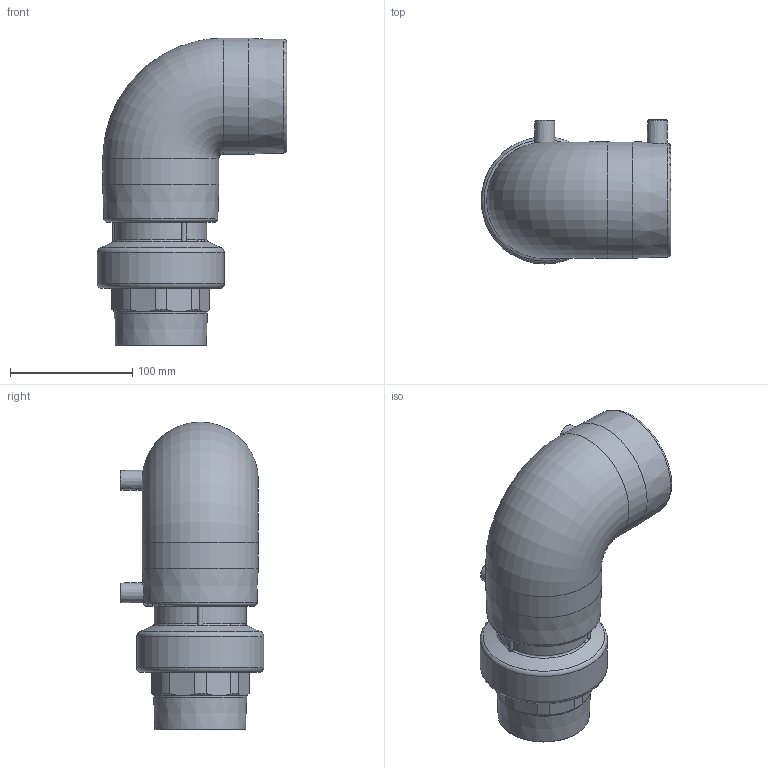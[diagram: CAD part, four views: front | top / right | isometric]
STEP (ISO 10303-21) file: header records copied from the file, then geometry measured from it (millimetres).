
FILE_DESCRIPTION(/* description */ ('Unknown'),/* implementation_level */ '2;1');
FILE_NAME(/* name */ 'GE9TMP075C',/* time_stamp */ '2021-06-09T10:07:40+02:00',/* author */ ('Unknown'),/* organization */ ('Unknown'),/* preprocessor_version */ 'ST-DEVELOPER v16.7',/* originating_system */ 'Solid Edge',/* authorisation */ 'Unknown');
FILE_SCHEMA (('AUTOMOTIVE_DESIGN {1 0 10303 214 3 1 1}'));
Length unit declared in the file: millimetre
Products named in the file (5): GE9TMP075C; GE9P075C; RTOMP075C; Parte PE 075; IOM075C
Assembly tree (4 placements, depth 3):
  GE9TMP075C
    GE9P075C
    RTOMP075C
      Parte PE 075
      IOM075C
Bounding box: 155 x 117.5 x 251.5 mm (x, y, z)
Volume: 900383.3 mm3; surface area: 223844.7 mm2
Topology: 3 solids, 3 shells, 209 faces, 498 edges, 319 vertices
Faces by surface type: plane 108, cylinder 52, cone 17, torus 17, bspline 15
Full cylindrical faces by diameter (mm): 4 x2, 6 x2, 12 x2, 61.4 x1, 64 x1, 67 x2, 72 x2, 75 x3, 76.3 x1, 83 x4, 83.4 x2, 89 x8, 95 x2, 104 x1
Entity records: 6659 total; most frequent: CARTESIAN_POINT 1446, DIRECTION 974, ORIENTED_EDGE 856, EDGE_CURVE 428, AXIS2_PLACEMENT_3D 405, VERTEX_POINT 299, EDGE_LOOP 289, FACE_BOUND 289
